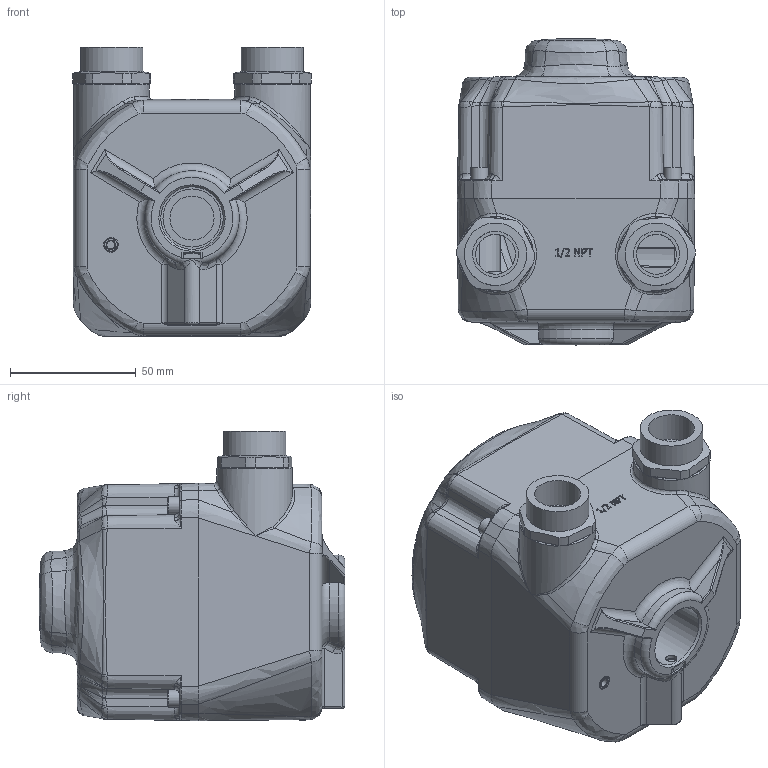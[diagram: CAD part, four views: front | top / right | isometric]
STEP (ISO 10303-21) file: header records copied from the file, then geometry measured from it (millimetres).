
FILE_DESCRIPTION(/* description */ ('HOUSING, PRISM, SILVER, 7/8"-9 CONDUIT THREADS'),/* implementation_level */ '2;1');
FILE_NAME(/* name */ 'C:\vault\Engineering Documents\Work In Progress\BKunz\Platform STP files\Updated with conduits\PM Standard Updated STP.stp',/* time_stamp */ '2017-08-02T15:36:58-05:00',/* author */ ('ffmkunzbob'),/* organization */ (''),/* preprocessor_version */ 'ST-DEVELOPER v16.1',/* originating_system */ 'Autodesk Inventor 2016',/* authorisation */ '');
FILE_SCHEMA (('AUTOMOTIVE_DESIGN { 1 0 10303 214 3 1 1 }'));
Products named in the file (15): 401409; 409109; 401410; 428051; 428082; 408945; 428093; 409154; 409100; 428074; 408944; PM Housing Marked Conduits  401614; 402162; 408290; PM Standard Updated STP
Assembly tree (27 placements, depth 4):
  PM Standard Updated STP
    PM Housing Marked Conduits  401614
      401410
        401409
        409109
      428051  x4
      428082
      408945  x2
      428093  x6
      409154
      409100  x2
      428074
      408944
    402162
    408290  x4
Bounding box: 95.01 x 121.74 x 115.21 mm (x, y, z)
Volume: 291630.7 mm3; surface area: 142648.5 mm2
Topology: 25 solids, 25 shells, 1696 faces, 4045 edges, 2526 vertices
Faces by surface type: plane 622, cylinder 467, bspline 335, cone 220, torus 47, sphere 5
Full cylindrical faces by diameter (mm): 1.397 x3, 1.524 x1, 2.007 x3, 2.032 x2, 2.159 x8, 2.235 x4, 2.54 x1, 2.616 x4, 2.642 x9, 3.175 x2, 3.2 x4, 3.251 x6, 3.378 x16, 3.441 x40, 3.505 x4, 3.581 x9, 3.683 x8, 4 x42, 4.343 x2, 4.369 x16, 4.445 x6, 4.648 x1, 4.775 x2, 4.928 x1, 4.953 x1, 5.232 x4, 5.283 x4, 5.334 x3, 5.537 x4, 5.791 x1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
Entity records: 65782 total; most frequent: CARTESIAN_POINT 34676, ORIENTED_EDGE 6386, DIRECTION 5552, EDGE_CURVE 3193, VERTEX_POINT 2186, AXIS2_PLACEMENT_3D 2089, EDGE_LOOP 1937, FACE_OUTER_BOUND 1446
